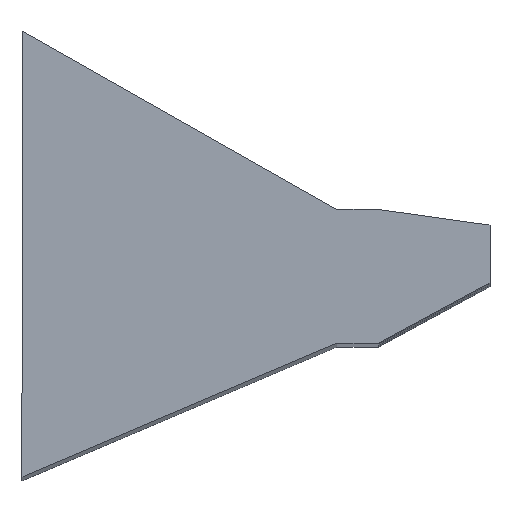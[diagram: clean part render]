
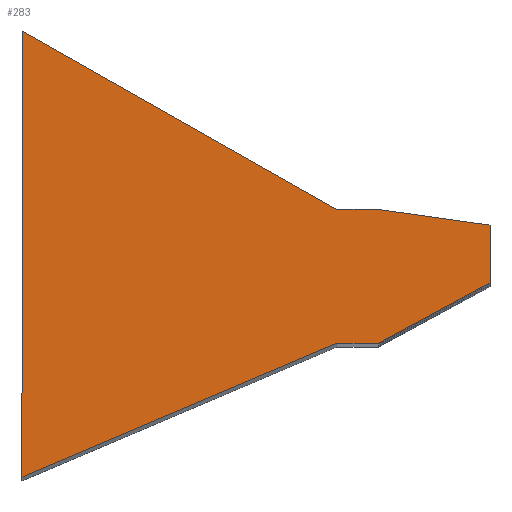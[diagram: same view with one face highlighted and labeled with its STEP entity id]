
A CAD part, top view. The second image highlights one B-rep face of the part: STEP entity #283.
In plain terms, the highlighted planar face has unit normal (0, 0, 1).
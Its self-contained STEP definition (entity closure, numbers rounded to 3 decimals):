
#283=ADVANCED_FACE('',(#485),#487,.T.);
#485=FACE_BOUND('',#486,.T.);
#486=EDGE_LOOP('',(#622,#623,#624,#625,#626,#627,#628,#629));
#487=PLANE('',#488);
#488=AXIS2_PLACEMENT_3D('',#489,#490,#491);
#489=CARTESIAN_POINT('',(0.,0.,25.3));
#490=DIRECTION('',(0.,0.,1.));
#491=DIRECTION('',(1.,0.,0.));
#622=ORIENTED_EDGE('',*,*,#701,.T.);
#623=ORIENTED_EDGE('',*,*,#687,.T.);
#624=ORIENTED_EDGE('',*,*,#682,.T.);
#625=ORIENTED_EDGE('',*,*,#670,.T.);
#626=ORIENTED_EDGE('',*,*,#658,.T.);
#627=ORIENTED_EDGE('',*,*,#642,.T.);
#628=ORIENTED_EDGE('',*,*,#700,.T.);
#629=ORIENTED_EDGE('',*,*,#702,.T.);
#642=EDGE_CURVE('',#713,#711,#714,.T.);
#658=EDGE_CURVE('',#741,#713,#742,.T.);
#670=EDGE_CURVE('',#761,#741,#762,.T.);
#682=EDGE_CURVE('',#781,#761,#782,.T.);
#687=EDGE_CURVE('',#787,#781,#788,.T.);
#700=EDGE_CURVE('',#711,#803,#805,.T.);
#701=EDGE_CURVE('',#806,#787,#807,.T.);
#702=EDGE_CURVE('',#803,#806,#808,.T.);
#711=VERTEX_POINT('',#823);
#713=VERTEX_POINT('',#827);
#714=LINE('',#828,#829);
#741=VERTEX_POINT('',#887);
#742=LINE('',#888,#889);
#761=VERTEX_POINT('',#931);
#762=LINE('',#932,#933);
#781=VERTEX_POINT('',#975);
#782=LINE('',#976,#977);
#787=VERTEX_POINT('',#991);
#788=LINE('',#992,#993);
#803=VERTEX_POINT('',#1031);
#805=LINE('',#1035,#1036);
#806=VERTEX_POINT('',#1038);
#807=LINE('',#1039,#1040);
#808=LINE('',#1042,#1043);
#823=CARTESIAN_POINT('',(7.058,-0.024,25.3));
#827=CARTESIAN_POINT('',(8.,-0.024,25.3));
#828=CARTESIAN_POINT('',(8.,-0.024,25.3));
#829=VECTOR('',#830,1.);
#830=DIRECTION('',(-1.,0.,0.));
#887=CARTESIAN_POINT('',(10.5,-0.376,25.3));
#888=CARTESIAN_POINT('',(10.5,-0.376,25.3));
#889=VECTOR('',#890,1.);
#890=DIRECTION('',(-0.99,0.139,0.));
#931=CARTESIAN_POINT('',(10.5,-1.673,25.3));
#932=CARTESIAN_POINT('',(10.5,-1.673,25.3));
#933=VECTOR('',#934,1.);
#934=DIRECTION('',(0.,1.,0.));
#975=CARTESIAN_POINT('',(8.,-3.024,25.3));
#976=CARTESIAN_POINT('',(8.,-3.024,25.3));
#977=VECTOR('',#978,1.);
#978=DIRECTION('',(0.88,0.476,0.));
#991=CARTESIAN_POINT('',(7.058,-3.024,25.3));
#992=CARTESIAN_POINT('',(7.058,-3.024,25.3));
#993=VECTOR('',#994,1.);
#994=DIRECTION('',(1.,0.,0.));
#1031=CARTESIAN_POINT('',(0.,3.976,25.3));
#1035=CARTESIAN_POINT('',(7.058,-0.024,25.3));
#1036=VECTOR('',#1037,1.);
#1037=DIRECTION('',(-0.87,0.493,0.));
#1038=CARTESIAN_POINT('',(0.,-6.024,25.3));
#1039=CARTESIAN_POINT('',(0.,-6.024,25.3));
#1040=VECTOR('',#1041,1.);
#1041=DIRECTION('',(0.92,0.391,0.));
#1042=CARTESIAN_POINT('',(0.,3.976,25.3));
#1043=VECTOR('',#1044,1.);
#1044=DIRECTION('',(0.,-1.,0.));
